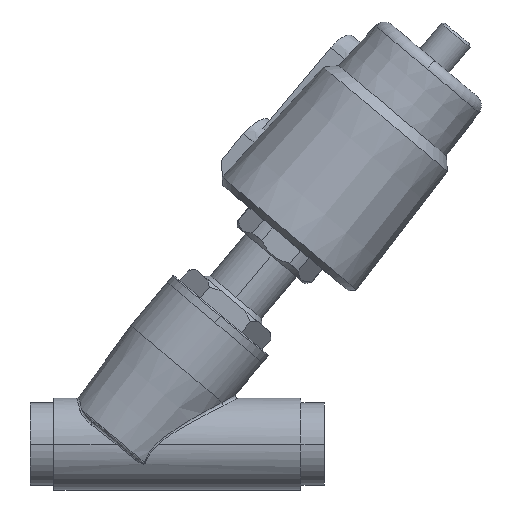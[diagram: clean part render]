
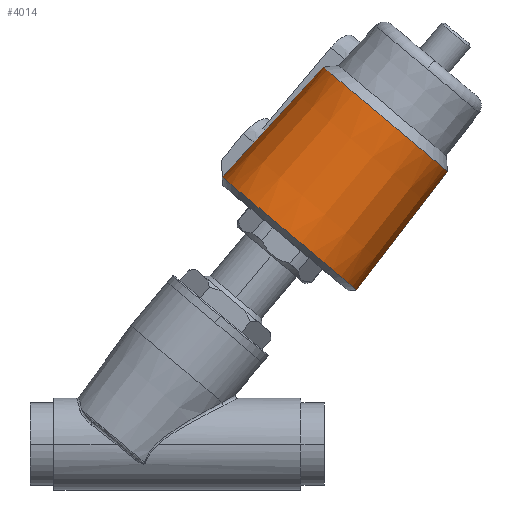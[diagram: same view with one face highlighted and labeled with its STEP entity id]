
A CAD part, top view. The second image highlights one B-rep face of the part: STEP entity #4014.
In plain terms, the highlighted conical face has half-angle 2.5 degrees and reference radius 37.278 mm.
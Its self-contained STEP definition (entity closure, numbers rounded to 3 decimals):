
#49 = CARTESIAN_POINT ( 'NONE',  ( 10.503, 61.584, 173.514 ) ) ;
#389 = AXIS2_PLACEMENT_3D ( 'NONE', #3112, #6911, #6956 ) ;
#436 = AXIS2_PLACEMENT_3D ( 'NONE', #4722, #1509, #6891 ) ;
#525 = VECTOR ( 'NONE', #5942, 1000. ) ;
#855 = CIRCLE ( 'NONE', #2598, 34.507 ) ;
#1095 = EDGE_CURVE ( 'NONE', #3584, #6124, #1640, .T. ) ;
#1506 = ORIENTED_EDGE ( 'NONE', *, *, #1748, .T. ) ;
#1509 = DIRECTION ( 'NONE',  ( 0., -1., 0. ) ) ;
#1640 = CIRCLE ( 'NONE', #389, 37.278 ) ;
#1748 = EDGE_CURVE ( 'NONE', #2988, #4274, #855, .T. ) ;
#2598 = AXIS2_PLACEMENT_3D ( 'NONE', #5872, #4846, #3704 ) ;
#2614 = CARTESIAN_POINT ( 'NONE',  ( -61.282, -1.887, 173.514 ) ) ;
#2643 = ORIENTED_EDGE ( 'NONE', *, *, #5759, .T. ) ;
#2988 = VERTEX_POINT ( 'NONE', #49 ) ;
#3006 = CARTESIAN_POINT ( 'NONE',  ( 13.274, -1.887, 173.514 ) ) ;
#3112 = CARTESIAN_POINT ( 'NONE',  ( -24.004, -1.887, 173.514 ) ) ;
#3584 = VERTEX_POINT ( 'NONE', #4708 ) ;
#3704 = DIRECTION ( 'NONE',  ( -0.923, 0., -0.385 ) ) ;
#3712 = VECTOR ( 'NONE', #5380, 1000. ) ;
#3936 = ORIENTED_EDGE ( 'NONE', *, *, #1095, .T. ) ;
#4014 = ADVANCED_FACE ( 'NONE', ( #5374 ), #7029, .T. ) ;
#4150 = EDGE_CURVE ( 'NONE', #2988, #6124, #6086, .T. ) ;
#4274 = VERTEX_POINT ( 'NONE', #6523 ) ;
#4291 = CARTESIAN_POINT ( 'NONE',  ( 13.274, -1.887, 173.514 ) ) ;
#4708 = CARTESIAN_POINT ( 'NONE',  ( -61.282, -1.887, 173.514 ) ) ;
#4722 = CARTESIAN_POINT ( 'NONE',  ( -24.004, -1.887, 173.514 ) ) ;
#4846 = DIRECTION ( 'NONE',  ( 0., -1., 0. ) ) ;
#5100 = ORIENTED_EDGE ( 'NONE', *, *, #4150, .F. ) ;
#5265 = EDGE_LOOP ( 'NONE', ( #1506, #2643, #3936, #5100 ) ) ;
#5374 = FACE_OUTER_BOUND ( 'NONE', #5265, .T. ) ;
#5380 = DIRECTION ( 'NONE',  ( 0.044, -0.999, 0. ) ) ;
#5759 = EDGE_CURVE ( 'NONE', #4274, #3584, #6316, .T. ) ;
#5872 = CARTESIAN_POINT ( 'NONE',  ( -24.004, 61.584, 173.514 ) ) ;
#5942 = DIRECTION ( 'NONE',  ( -0.044, -0.999, 0. ) ) ;
#6086 = LINE ( 'NONE', #4291, #3712 ) ;
#6124 = VERTEX_POINT ( 'NONE', #3006 ) ;
#6316 = LINE ( 'NONE', #2614, #525 ) ;
#6523 = CARTESIAN_POINT ( 'NONE',  ( -58.511, 61.584, 173.514 ) ) ;
#6891 = DIRECTION ( 'NONE',  ( 1., 0., 0. ) ) ;
#6911 = DIRECTION ( 'NONE',  ( 0., 1., 0. ) ) ;
#6956 = DIRECTION ( 'NONE',  ( -0.923, 0., -0.385 ) ) ;
#7029 = CONICAL_SURFACE ( 'NONE', #436, 37.278, 0.044 ) ;
